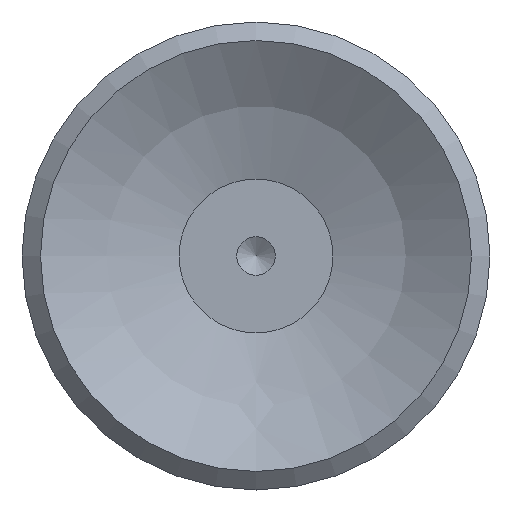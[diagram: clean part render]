
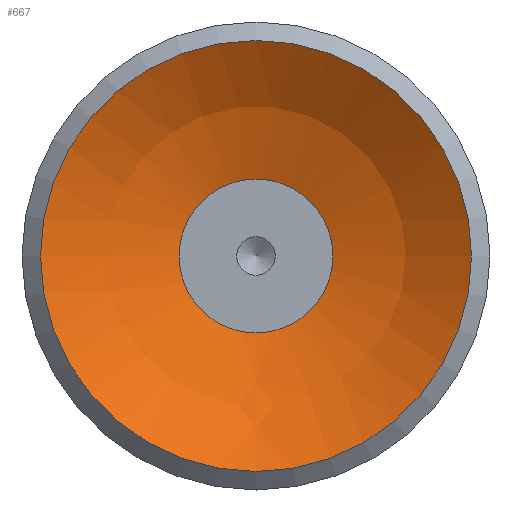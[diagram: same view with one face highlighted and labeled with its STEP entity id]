
A CAD part, front view. The second image highlights one B-rep face of the part: STEP entity #667.
In plain terms, the highlighted spherical face has radius 11.5 mm.
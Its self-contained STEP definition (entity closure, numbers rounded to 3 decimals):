
#667=ADVANCED_FACE('',(#1126,#1127),#1128,.F.);
#1126=FACE_OUTER_BOUND('',#1725,.T.);
#1127=FACE_OUTER_BOUND('',#1726,.T.);
#1128=SPHERICAL_SURFACE('',#1727,11.5);
#1725=EDGE_LOOP('',(#3215));
#1726=EDGE_LOOP('',(#3216));
#1727=AXIS2_PLACEMENT_3D('',#3217,#3218,#3219);
#3215=ORIENTED_EDGE('',*,*,#4168,.T.);
#3216=ORIENTED_EDGE('',*,*,#4169,.F.);
#3217=CARTESIAN_POINT('',(0.001,9.494,-22.735));
#3218=DIRECTION('',(0.0,0.,-1.0));
#3219=DIRECTION('',(1.0,0.0,0.0));
#4168=EDGE_CURVE('',#4878,#4878,#4879,.T.);
#4169=EDGE_CURVE('',#4880,#4880,#4881,.T.);
#4878=VERTEX_POINT('',#6701);
#4879=CIRCLE('',#6702,7.0);
#4880=VERTEX_POINT('',#6703);
#4881=CIRCLE('',#6704,2.5);
#6701=CARTESIAN_POINT('',(0.001,16.494,-13.611));
#6702=AXIS2_PLACEMENT_3D('',#7820,#7821,#7822);
#6703=CARTESIAN_POINT('',(0.001,11.994,-11.51));
#6704=AXIS2_PLACEMENT_3D('',#7823,#7824,#7825);
#7820=CARTESIAN_POINT('',(0.001,9.494,-13.611));
#7821=DIRECTION('',(0.0,0.,-1.0));
#7822=DIRECTION('',(0.0,1.0,0.));
#7823=CARTESIAN_POINT('',(0.001,9.494,-11.51));
#7824=DIRECTION('',(0.0,0.,-1.0));
#7825=DIRECTION('',(0.0,1.0,0.));
